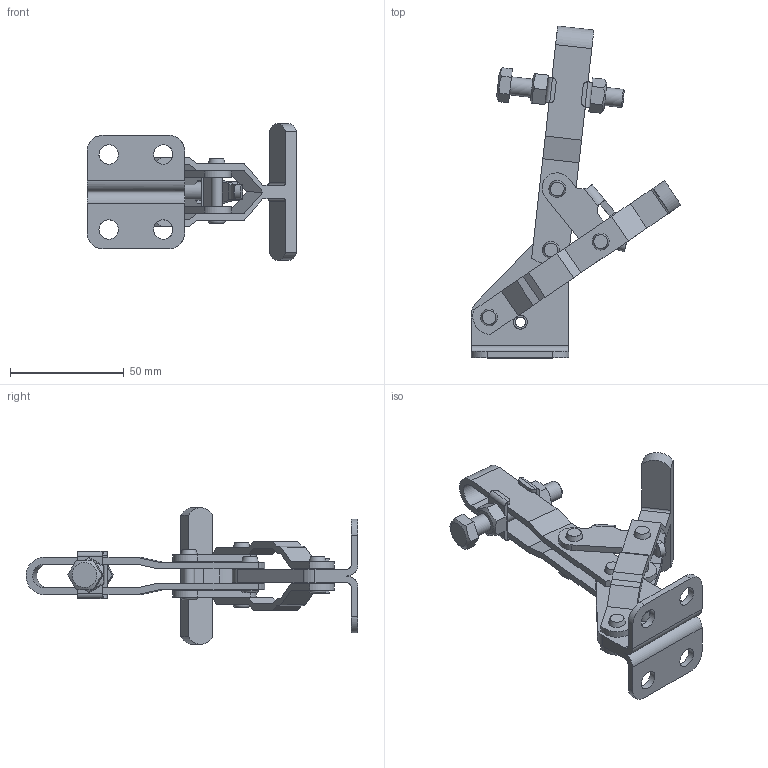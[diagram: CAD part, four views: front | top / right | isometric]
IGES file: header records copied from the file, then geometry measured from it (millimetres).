
Global section: file name: No.42P(42P-2S)(ul); native system: Autodesk Inventor 2020; preprocessor: unknown; author: 高橋善宗,,11,0,1; organization: 5H16010101.000000; date: 20251031.105446; units: millimetre
Bounding box: 92.3 x 145.92 x 60 mm (x, y, z)
Volume: 47623.7 mm3; surface area: 35734.3 mm2
Topology: 13 solids, 13 shells, 261 faces, 681 edges, 459 vertices
Faces by surface type: bspline 261
